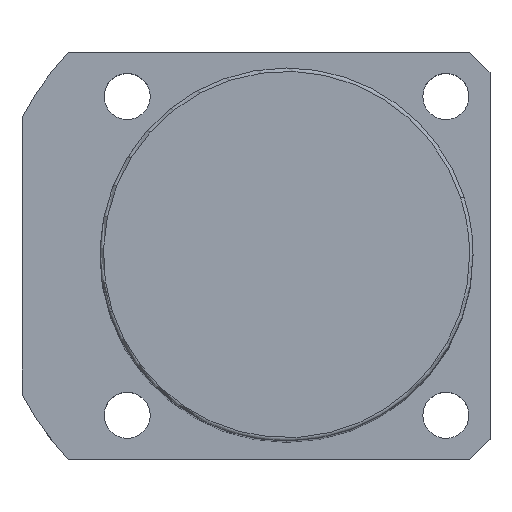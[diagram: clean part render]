
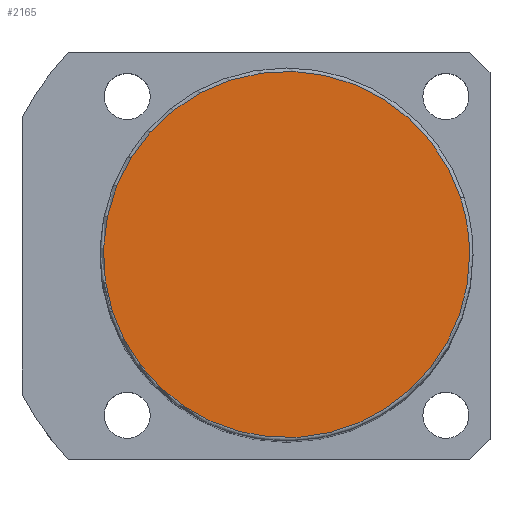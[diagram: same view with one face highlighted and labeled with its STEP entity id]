
A CAD part, top view. The second image highlights one B-rep face of the part: STEP entity #2165.
In plain terms, the highlighted planar face has unit normal (0, 0, 1).
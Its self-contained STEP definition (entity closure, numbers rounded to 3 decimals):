
#2131=CARTESIAN_POINT('',(27.0,0.0,126.0));
#2132=VERTEX_POINT('',#2131);
#2133=CARTESIAN_POINT('',(25.679,8.343,126.0));
#2134=VERTEX_POINT('',#2133);
#2135=CARTESIAN_POINT('',(0.0,0.0,126.0));
#2136=DIRECTION('',(0.0,0.0,1.0));
#2137=DIRECTION('',(1.0,0.0,0.0));
#2138=AXIS2_PLACEMENT_3D('',#2135,#2136,#2137);
#2139=CIRCLE('',#2138,27.0);
#2140=EDGE_CURVE('no 2175',#2132,#2134,#2139,.T.);
#2141=ORIENTED_EDGE('',*,*,#2140,.T.);
#2142=CARTESIAN_POINT('',(-25.679,-8.343,126.0));
#2143=VERTEX_POINT('',#2142);
#2144=CARTESIAN_POINT('',(0.0,0.0,126.0));
#2145=DIRECTION('',(0.0,0.0,1.0));
#2146=DIRECTION('',(1.0,0.0,0.0));
#2147=AXIS2_PLACEMENT_3D('',#2144,#2145,#2146);
#2148=CIRCLE('',#2147,27.0);
#2149=EDGE_CURVE('no 2181',#2134,#2143,#2148,.T.);
#2150=ORIENTED_EDGE('',*,*,#2149,.T.);
#2151=CARTESIAN_POINT('',(0.0,0.0,126.0));
#2152=DIRECTION('',(0.0,0.0,1.0));
#2153=DIRECTION('',(1.0,0.0,0.0));
#2154=AXIS2_PLACEMENT_3D('',#2151,#2152,#2153);
#2155=CIRCLE('',#2154,27.0);
#2156=EDGE_CURVE('no 2185',#2143,#2132,#2155,.T.);
#2157=ORIENTED_EDGE('',*,*,#2156,.T.);
#2158=EDGE_LOOP('',(#2141,#2150,#2157));
#2159=FACE_OUTER_BOUND('',#2158,.T.);
#2160=CARTESIAN_POINT('',(0.0,0.0,126.0));
#2161=DIRECTION('',(0.0,0.0,1.0));
#2162=DIRECTION('',(1.0,0.0,0.0));
#2163=AXIS2_PLACEMENT_3D('',#2160,#2161,#2162);
#2164=PLANE('',#2163);
#2165=ADVANCED_FACE('no 2166',(#2159),#2164,.T.);
